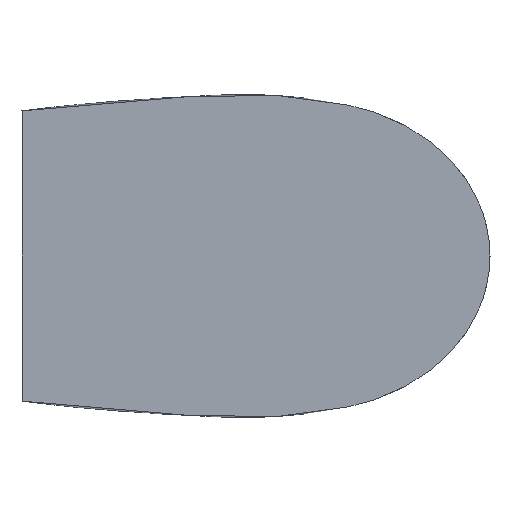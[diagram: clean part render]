
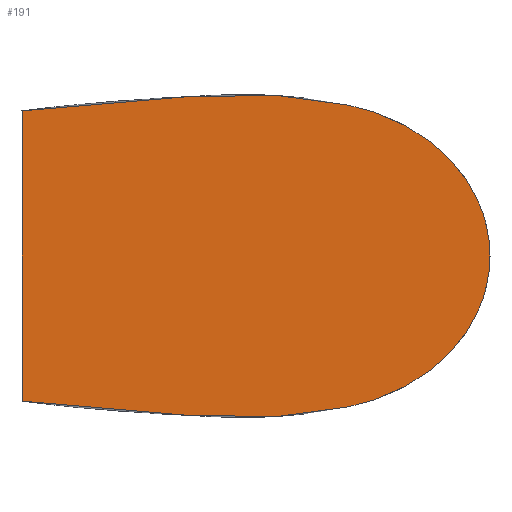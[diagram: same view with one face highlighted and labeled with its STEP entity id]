
A CAD part, left-side view. The second image highlights one B-rep face of the part: STEP entity #191.
In plain terms, the highlighted planar face has unit normal (-1, 0, 0).
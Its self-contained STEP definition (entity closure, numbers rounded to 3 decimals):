
#2=DIRECTION('',(0.,0.,-1.));
#3=VECTOR('',#2,2.606);
#4=CARTESIAN_POINT('',(-9.,-0.3,1.303));
#5=LINE('',#4,#3);
#10=CARTESIAN_POINT('',(-9.,-0.3,1.303));
#11=CARTESIAN_POINT('',(-9.,-0.466,1.324));
#12=CARTESIAN_POINT('',(-9.,-0.792,1.361));
#13=CARTESIAN_POINT('',(-9.,-1.197,1.396));
#14=CARTESIAN_POINT('',(-9.,-1.485,1.415));
#15=CARTESIAN_POINT('',(-9.,-1.652,1.424));
#16=CARTESIAN_POINT('',(-9.,-1.757,1.429));
#17=CARTESIAN_POINT('',(-9.,-1.842,1.433));
#18=CARTESIAN_POINT('',(-9.,-1.906,1.435));
#19=CARTESIAN_POINT('',(-9.,-1.97,1.44));
#20=CARTESIAN_POINT('',(-9.,-2.057,1.445));
#21=CARTESIAN_POINT('',(-9.,-2.166,1.45));
#22=CARTESIAN_POINT('',(-9.,-2.367,1.452));
#23=CARTESIAN_POINT('',(-9.,-2.587,1.445));
#24=CARTESIAN_POINT('',(-9.,-2.823,1.422));
#25=CARTESIAN_POINT('',(-9.,-3.001,1.398));
#26=CARTESIAN_POINT('',(-9.,-3.181,1.366));
#27=CARTESIAN_POINT('',(-9.,-3.422,1.313));
#28=CARTESIAN_POINT('',(-9.,-3.714,1.2));
#29=CARTESIAN_POINT('',(-9.,-4.033,0.992));
#30=CARTESIAN_POINT('',(-9.,-4.292,0.712));
#31=CARTESIAN_POINT('',(-9.,-4.463,0.371));
#32=CARTESIAN_POINT('',(-9.,-4.502,0.123));
#33=CARTESIAN_POINT('',(-9.,-4.502,0.));
#35=CARTESIAN_POINT('',(-9.,-0.3,-1.303));
#36=CARTESIAN_POINT('',(-9.,-0.466,-1.324));
#37=CARTESIAN_POINT('',(-9.,-0.792,-1.361));
#38=CARTESIAN_POINT('',(-9.,-1.197,-1.396));
#39=CARTESIAN_POINT('',(-9.,-1.485,-1.415));
#40=CARTESIAN_POINT('',(-9.,-1.652,-1.424));
#41=CARTESIAN_POINT('',(-9.,-1.757,-1.429));
#42=CARTESIAN_POINT('',(-9.,-1.842,-1.433));
#43=CARTESIAN_POINT('',(-9.,-1.906,-1.435));
#44=CARTESIAN_POINT('',(-9.,-1.97,-1.44));
#45=CARTESIAN_POINT('',(-9.,-2.057,-1.445));
#46=CARTESIAN_POINT('',(-9.,-2.166,-1.45));
#47=CARTESIAN_POINT('',(-9.,-2.367,-1.452));
#48=CARTESIAN_POINT('',(-9.,-2.587,-1.445));
#49=CARTESIAN_POINT('',(-9.,-2.823,-1.422));
#50=CARTESIAN_POINT('',(-9.,-3.001,-1.398));
#51=CARTESIAN_POINT('',(-9.,-3.181,-1.366));
#52=CARTESIAN_POINT('',(-9.,-3.422,-1.313));
#53=CARTESIAN_POINT('',(-9.,-3.714,-1.2));
#54=CARTESIAN_POINT('',(-9.,-4.033,-0.992));
#55=CARTESIAN_POINT('',(-9.,-4.292,-0.712));
#56=CARTESIAN_POINT('',(-9.,-4.463,-0.371));
#57=CARTESIAN_POINT('',(-9.,-4.502,-0.123));
#58=CARTESIAN_POINT('',(-9.,-4.502,0.));
#156=CARTESIAN_POINT('',(-9.,-0.3,1.303));
#157=CARTESIAN_POINT('',(-9.,-0.3,-1.303));
#158=VERTEX_POINT('',#156);
#159=VERTEX_POINT('',#157);
#160=VERTEX_POINT('',#33);
#179=CARTESIAN_POINT('',(-9.,0.,0.));
#180=DIRECTION('',(1.,0.,0.));
#181=DIRECTION('',(0.,0.,-1.));
#182=AXIS2_PLACEMENT_3D('',#179,#180,#181);
#183=PLANE('',#182);
#184=ORIENTED_EDGE('',*,*,#166,.F.);
#186=ORIENTED_EDGE('',*,*,#185,.T.);
#188=ORIENTED_EDGE('',*,*,#187,.F.);
#189=EDGE_LOOP('',(#184,#186,#188));
#190=FACE_OUTER_BOUND('',#189,.F.);
#191=ADVANCED_FACE('',(#190),#183,.F.);
#34=B_SPLINE_CURVE_WITH_KNOTS('',3,(#10,#11,#12,#13,#14,#15,#16,#17,#18,#19,#20,
#21,#22,#23,#24,#25,#26,#27,#28,#29,#30,#31,#32,#33),.UNSPECIFIED.,.F.,.F.,(4,1,
1,1,1,1,1,1,1,1,1,1,1,1,1,1,1,1,1,1,1,4),(0.,0.111,
0.221,0.276,0.304,0.332,
0.346,0.359,0.373,0.387,
0.415,0.442,0.512,0.547,
0.582,0.617,0.651,0.721,
0.791,0.861,0.93,1.),.UNSPECIFIED.);
#59=B_SPLINE_CURVE_WITH_KNOTS('',3,(#35,#36,#37,#38,#39,#40,#41,#42,#43,#44,#45,
#46,#47,#48,#49,#50,#51,#52,#53,#54,#55,#56,#57,#58),.UNSPECIFIED.,.F.,.F.,(4,1,
1,1,1,1,1,1,1,1,1,1,1,1,1,1,1,1,1,1,1,4),(0.,0.111,
0.221,0.276,0.304,0.332,
0.346,0.359,0.373,0.387,
0.415,0.442,0.512,0.547,
0.582,0.617,0.651,0.721,
0.791,0.861,0.93,1.),.UNSPECIFIED.);
#166=EDGE_CURVE('',#158,#159,#5,.T.);
#185=EDGE_CURVE('',#158,#160,#34,.T.);
#187=EDGE_CURVE('',#159,#160,#59,.T.);
